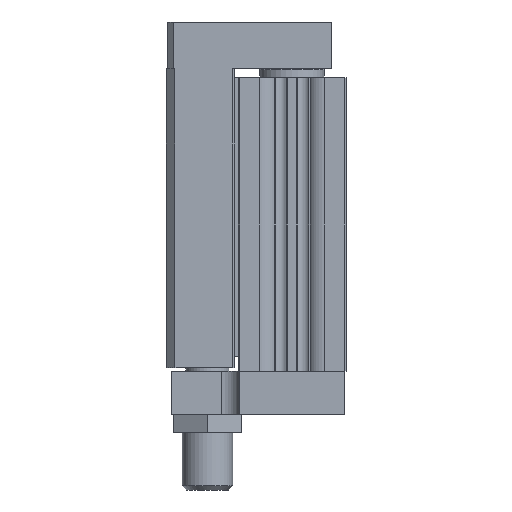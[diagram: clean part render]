
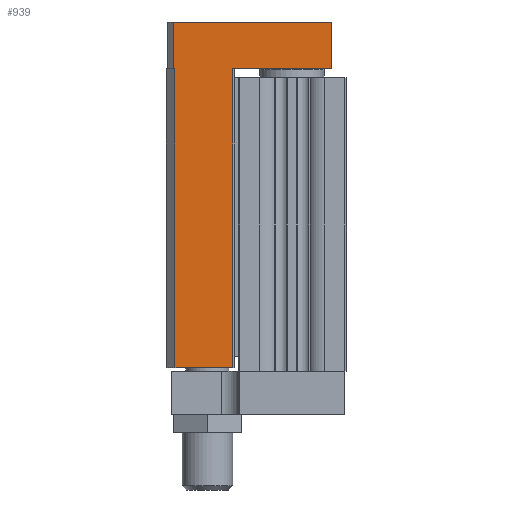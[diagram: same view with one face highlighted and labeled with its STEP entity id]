
A CAD part, left-side view. The second image highlights one B-rep face of the part: STEP entity #939.
In plain terms, the highlighted planar face has unit normal (-1, 0, 0).
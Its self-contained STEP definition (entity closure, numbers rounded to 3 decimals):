
#939 = ADVANCED_FACE( '', ( #2225 ), #2226, .T. );
#2225 = FACE_OUTER_BOUND( '', #3981, .T. );
#2226 = PLANE( '', #3982 );
#3981 = EDGE_LOOP( '', ( #6581, #6582, #6583, #6584, #6585, #6586, #6587, #6588 ) );
#3982 = AXIS2_PLACEMENT_3D( '', #6589, #6590, #6591 );
#6581 = ORIENTED_EDGE( '', *, *, #10249, .T. );
#6582 = ORIENTED_EDGE( '', *, *, #10250, .T. );
#6583 = ORIENTED_EDGE( '', *, *, #10169, .F. );
#6584 = ORIENTED_EDGE( '', *, *, #10251, .F. );
#6585 = ORIENTED_EDGE( '', *, *, #10104, .T. );
#6586 = ORIENTED_EDGE( '', *, *, #10252, .T. );
#6587 = ORIENTED_EDGE( '', *, *, #9799, .F. );
#6588 = ORIENTED_EDGE( '', *, *, #10253, .T. );
#6589 = CARTESIAN_POINT( '', ( -38., 47.5, -83. ) );
#6590 = DIRECTION( '', ( -1., 0., 0. ) );
#6591 = DIRECTION( '', ( 0., 0., 1. ) );
#9799 = EDGE_CURVE( '', #11696, #11698, #11699, .T. );
#10104 = EDGE_CURVE( '', #12193, #12191, #12194, .T. );
#10169 = EDGE_CURVE( '', #12295, #12286, #12297, .T. );
#10249 = EDGE_CURVE( '', #12417, #12418, #12419, .T. );
#10250 = EDGE_CURVE( '', #12418, #12286, #12420, .T. );
#10251 = EDGE_CURVE( '', #12193, #12295, #12421, .T. );
#10252 = EDGE_CURVE( '', #12191, #11698, #12422, .T. );
#10253 = EDGE_CURVE( '', #11696, #12417, #12423, .T. );
#11696 = VERTEX_POINT( '', #14371 );
#11698 = VERTEX_POINT( '', #14374 );
#11699 = LINE( '', #14375, #14376 );
#12191 = VERTEX_POINT( '', #15051 );
#12193 = VERTEX_POINT( '', #15054 );
#12194 = LINE( '', #15055, #15056 );
#12286 = VERTEX_POINT( '', #15185 );
#12295 = VERTEX_POINT( '', #15198 );
#12297 = LINE( '', #15201, #15202 );
#12417 = VERTEX_POINT( '', #15378 );
#12418 = VERTEX_POINT( '', #15379 );
#12419 = LINE( '', #15380, #15381 );
#12420 = LINE( '', #15382, #15383 );
#12421 = LINE( '', #15384, #15385 );
#12422 = LINE( '', #15386, #15387 );
#12423 = LINE( '', #15388, #15389 );
#14371 = CARTESIAN_POINT( '', ( -38., 47.5, -83. ) );
#14374 = CARTESIAN_POINT( '', ( -38., 47.5, 0. ) );
#14375 = CARTESIAN_POINT( '', ( -38., 47.5, -83. ) );
#14376 = VECTOR( '', #17267, 1000. );
#15051 = CARTESIAN_POINT( '', ( -38., 48., 0. ) );
#15054 = CARTESIAN_POINT( '', ( -38., 48., 13. ) );
#15055 = CARTESIAN_POINT( '', ( -38., 48., 13. ) );
#15056 = VECTOR( '', #17584, 1000. );
#15185 = CARTESIAN_POINT( '', ( -38., 4., 0. ) );
#15198 = CARTESIAN_POINT( '', ( -38., 4., 13. ) );
#15201 = CARTESIAN_POINT( '', ( -38., 4., 13. ) );
#15202 = VECTOR( '', #17648, 1000. );
#15378 = CARTESIAN_POINT( '', ( -38., 31.5, -83. ) );
#15379 = CARTESIAN_POINT( '', ( -38., 31.5, 0. ) );
#15380 = CARTESIAN_POINT( '', ( -38., 31.5, -83. ) );
#15381 = VECTOR( '', #17717, 1000. );
#15382 = CARTESIAN_POINT( '', ( -38., 48., 0. ) );
#15383 = VECTOR( '', #17718, 1000. );
#15384 = CARTESIAN_POINT( '', ( -38., 48., 13. ) );
#15385 = VECTOR( '', #17719, 1000. );
#15386 = CARTESIAN_POINT( '', ( -38., 48., 0. ) );
#15387 = VECTOR( '', #17720, 1000. );
#15388 = CARTESIAN_POINT( '', ( -38., 47.5, -83. ) );
#15389 = VECTOR( '', #17721, 1000. );
#17267 = DIRECTION( '', ( 0., 0., 1. ) );
#17584 = DIRECTION( '', ( 0., 0., -1. ) );
#17648 = DIRECTION( '', ( 0., 0., -1. ) );
#17717 = DIRECTION( '', ( 0., 0., 1. ) );
#17718 = DIRECTION( '', ( 0., -1., 0. ) );
#17719 = DIRECTION( '', ( 0., -1., 0. ) );
#17720 = DIRECTION( '', ( 0., -1., 0. ) );
#17721 = DIRECTION( '', ( 0., -1., 0. ) );
